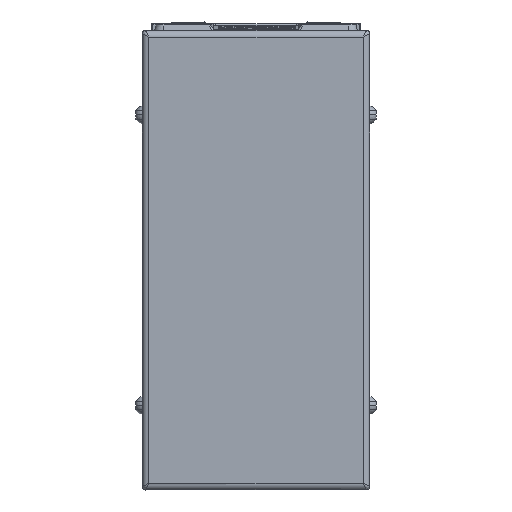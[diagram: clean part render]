
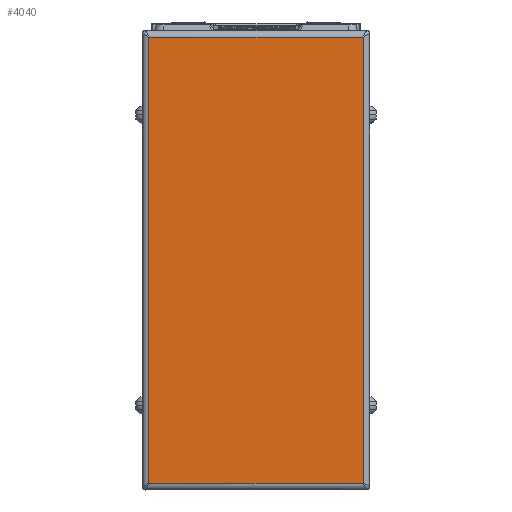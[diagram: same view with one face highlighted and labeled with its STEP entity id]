
A CAD part, left-side view. The second image highlights one B-rep face of the part: STEP entity #4040.
In plain terms, the highlighted planar face has unit normal (-1, 0, 0) as drawn and (0, 0, 1) by its records, which use the part's own axes.
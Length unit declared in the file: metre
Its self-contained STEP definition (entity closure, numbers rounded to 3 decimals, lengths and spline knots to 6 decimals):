
#4040=ADVANCED_FACE('',(#8404),#8405,.T.);
#8404=FACE_OUTER_BOUND('',#16373,.T.);
#8405=PLANE('',#16374);
#16373=EDGE_LOOP('',(#27024,#27025,#27026,#27027));
#16374=AXIS2_PLACEMENT_3D('',#27028,#27029,#27030);
#27024=ORIENTED_EDGE('',*,*,#35516,.F.);
#27025=ORIENTED_EDGE('',*,*,#34273,.F.);
#27026=ORIENTED_EDGE('',*,*,#35517,.F.);
#27027=ORIENTED_EDGE('',*,*,#35518,.F.);
#27028=CARTESIAN_POINT('',(-0.054,-0.014256,0.033889));
#27029=DIRECTION('',(0.0,0.0,1.0));
#27030=DIRECTION('',(1.0,0.0,0.0));
#34273=EDGE_CURVE('',#40937,#40933,#40939,.T.);
#35516=EDGE_CURVE('',#40933,#40269,#42633,.T.);
#35517=EDGE_CURVE('',#42634,#40937,#42635,.T.);
#35518=EDGE_CURVE('',#40269,#42634,#42636,.T.);
#40269=VERTEX_POINT('',#49176);
#40933=VERTEX_POINT('',#50221);
#40937=VERTEX_POINT('',#50235);
#40939=LINE('',#50246,#50247);
#42633=LINE('',#52819,#52820);
#42634=VERTEX_POINT('',#52821);
#42635=LINE('',#52822,#52823);
#42636=LINE('',#52824,#52825);
#49176=CARTESIAN_POINT('',(0.012,-0.045956,0.033889));
#50221=CARTESIAN_POINT('',(0.012,0.017444,0.033889));
#50235=CARTESIAN_POINT('',(-0.12,0.017444,0.033889));
#50246=CARTESIAN_POINT('',(-0.054,0.017444,0.033889));
#50247=VECTOR('',#58034,1.0);
#52819=CARTESIAN_POINT('',(0.012,-0.014256,0.033889));
#52820=VECTOR('',#59382,1.0);
#52821=CARTESIAN_POINT('',(-0.12,-0.045956,0.033889));
#52822=CARTESIAN_POINT('',(-0.12,-0.014256,0.033889));
#52823=VECTOR('',#59383,1.0);
#52824=CARTESIAN_POINT('',(-0.054,-0.045956,0.033889));
#52825=VECTOR('',#59384,1.0);
#58034=DIRECTION('',(1.0,0.0,0.0));
#59382=DIRECTION('',(0.0,-1.0,0.0));
#59383=DIRECTION('',(0.0,1.0,0.0));
#59384=DIRECTION('',(-1.0,0.0,0.0));
